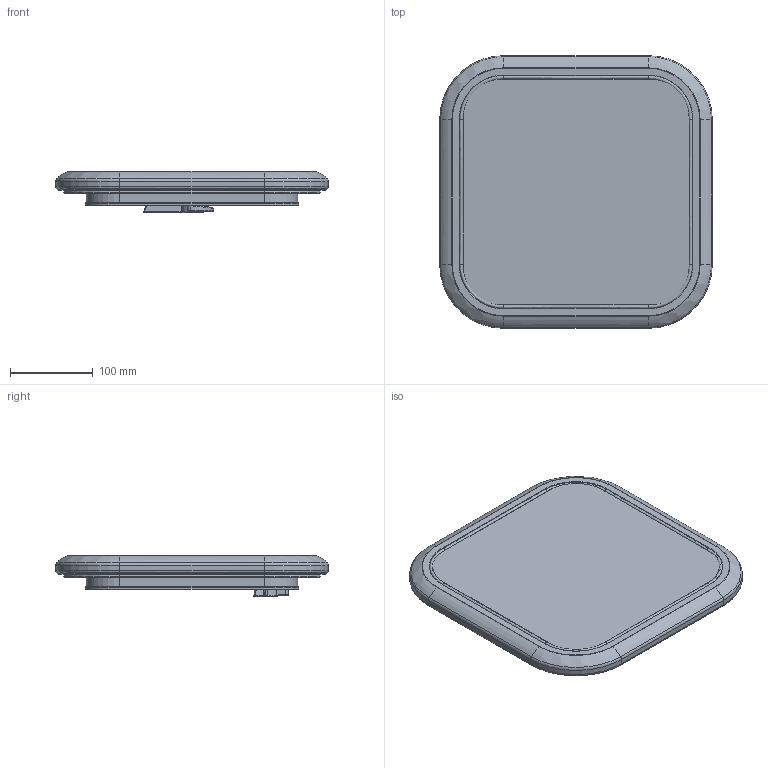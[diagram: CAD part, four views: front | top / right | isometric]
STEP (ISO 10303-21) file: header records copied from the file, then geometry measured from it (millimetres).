
FILE_DESCRIPTION((''),'2;1');
FILE_NAME('LEWMAR-HATCH-LOWPRO-10_ASM','2008-02-04T',('skennedy'),(''),'PRO/ENGINEER BY PARAMETRIC TECHNOLOGY CORPORATION, 2007030','PRO/ENGINEER BY PARAMETRIC TECHNOLOGY CORPORATION, 2007030','');
FILE_SCHEMA(('CONFIG_CONTROL_DESIGN'));
Length unit declared in the file: millimetre
Products named in the file (4): FRAME_10; 3591053X; SMALL_HANDLE_LHS; LEWMAR-HATCH-LOWPRO-10_ASM
Assembly tree (3 placements, depth 2):
  LEWMAR-HATCH-LOWPRO-10_ASM
    FRAME_10
    3591053X
    SMALL_HANDLE_LHS
Bounding box: 330 x 330 x 49.99 mm (x, y, z)
Volume: 1462541.7 mm3; surface area: 375940.3 mm2
Topology: 4 solids, 4 shells, 438 faces, 973 edges, 558 vertices
Faces by surface type: bspline 245, plane 99, cylinder 66, cone 14, torus 8, sphere 6
Entity records: 19892 total; most frequent: CARTESIAN_POINT 11294, ORIENTED_EDGE 1946, DIRECTION 1392, EDGE_CURVE 973, VERTEX_POINT 558, AXIS2_PLACEMENT_3D 494, EDGE_LOOP 455, FACE_OUTER_BOUND 438
